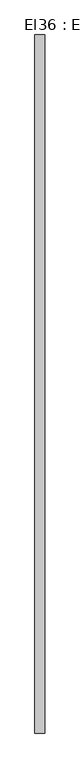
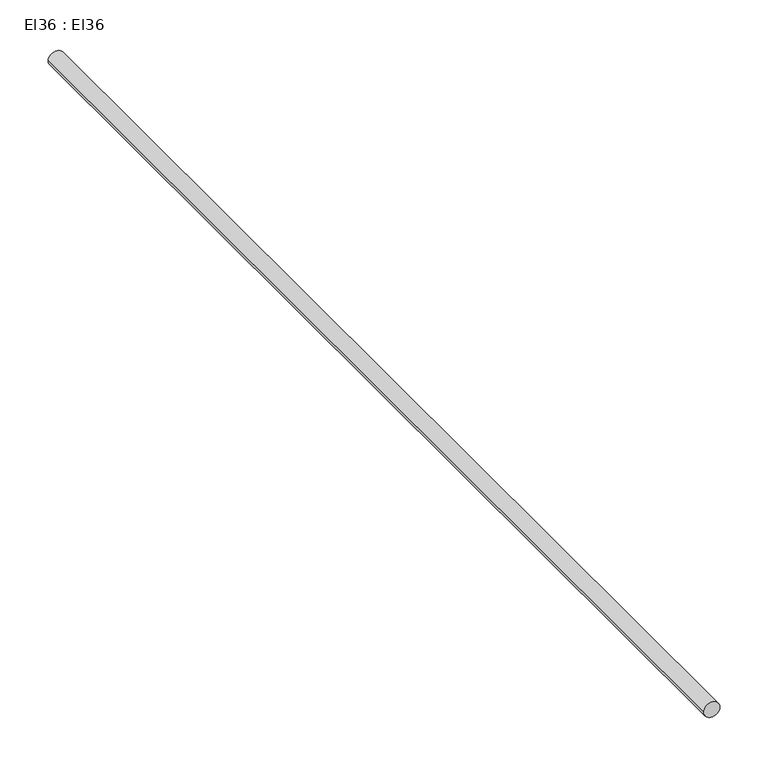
"""IFC4 building model written with IfcOpenShell, lengths in millimetres: cable carrier segment geometry, El36 : El36."""

from ifc_helpers import new_model, si_unit, point, frame, frame_2d, origin, place, context, project, spatial, circle_curve, trimmed, segment, composite_curve, outline, extrude, source, transform, mapped, element, save


def el36_el36_9875d6a6(model_context):
    return source(origin(), model_context, "Body", "SweptSolid", [
        extrude(outline(composite_curve([segment(trimmed(circle_curve(frame_2d((300.0, 6550.0)), 9.5), [point((300.0, 6540.5))], [point((300.0, 6559.5))], False, "CARTESIAN"), True, "CONTINUOUS"), segment(trimmed(circle_curve(frame_2d((300.0, 6550.0)), 9.5), [point((300.0, 6559.5))], [point((300.0, 6540.5))], False, "CARTESIAN"), True, "CONTINUOUS")], self_intersect=False)), frame((0.0, 17095.412, 0.0), z_axis=(0.0, 1.0, 0.0), x_axis=(0.0, 0.0, 1.0)), (0.0, 0.0, 1.0), 1358.18),
    ])


if __name__ == "__main__":
    model = new_model("IFC4")
    model_context = context("Model", 3, world=origin())
    ifc_project = project(units=[si_unit("LENGTHUNIT", "METRE", prefix="MILLI")], contexts=[model_context])
    site = spatial("IfcSite", under=ifc_project)
    building = spatial("IfcBuilding", under=site)
    placement = place(None, origin())
    el36_el36_shape = el36_el36_9875d6a6(model_context)
    element("IfcCableCarrierSegment", 1, ObjectType="El36 : El36", at=placement, inside=building, context=model_context, shape_type="MappedRepresentation", body=[
        mapped(el36_el36_shape, transform((0.0, 0.0, 0.0), x_axis=(1.0, 0.0, 0.0), y_axis=(0.0, 1.0, 0.0), z_axis=(0.0, 0.0, 1.0))),
    ])
    save(model, "model.ifc")
